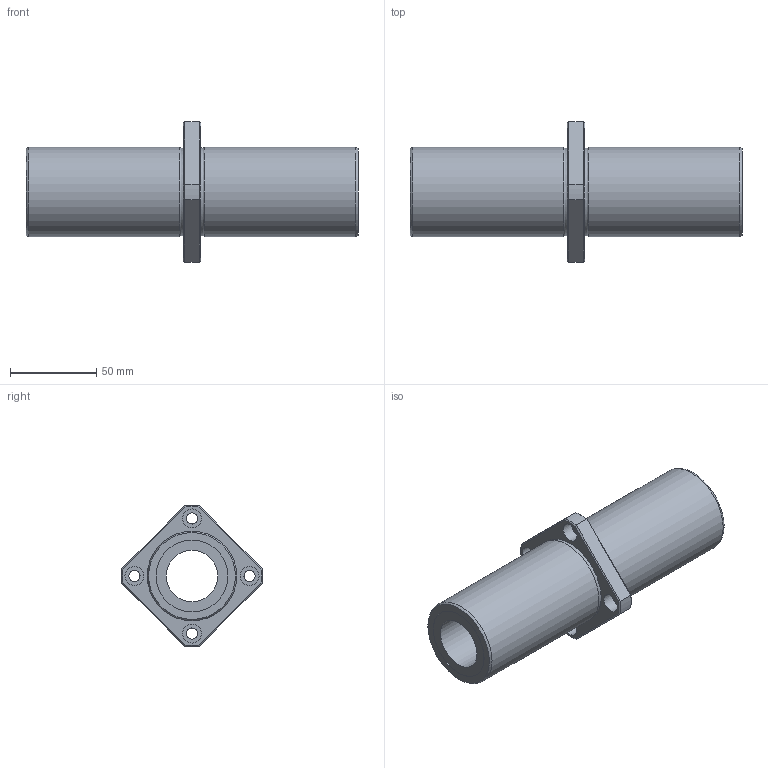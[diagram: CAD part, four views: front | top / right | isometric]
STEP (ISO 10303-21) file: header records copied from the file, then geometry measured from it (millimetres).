
FILE_DESCRIPTION((''),'2;1');
FILE_NAME('D:\製品 (図面)\カタログ用3D\メンテナンスフリー関連\STEP形式\LFLKC-MF\LFLKC30MF.stp','2010-06-01T16:02:02',('Tsuchiya'),(''),'Autodesk Inventor 10','Autodesk Inventor 10','');
FILE_SCHEMA(('AUTOMOTIVE_DESIGN { 1 0 10303 214 1 1 1 1 }'));
Length unit declared in the file: millimetre
Products named in the file (1): LFLKC30MF
Bounding box: 193 x 81.94 x 81.94 mm (x, y, z)
Volume: 288800.2 mm3; surface area: 57794.2 mm2
Topology: 1 solids, 1 shells, 51 faces, 103 edges, 62 vertices
Faces by surface type: plane 22, cylinder 17, cone 8, torus 2, bspline 2
Full cylindrical faces by diameter (mm): 6.6 x4, 11 x4, 30 x1, 41.7 x2, 52 x2
Entity records: 1413 total; most frequent: CARTESIAN_POINT 372, DIRECTION 216, ORIENTED_EDGE 172, AXIS2_PLACEMENT_3D 96, EDGE_CURVE 86, EDGE_LOOP 86, VERTEX_POINT 62, FACE_OUTER_BOUND 51
